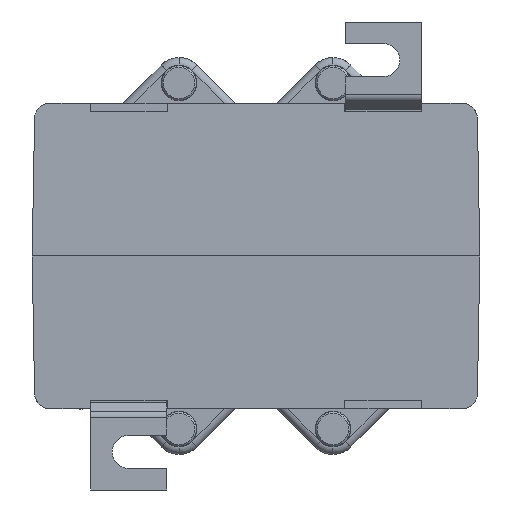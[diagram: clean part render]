
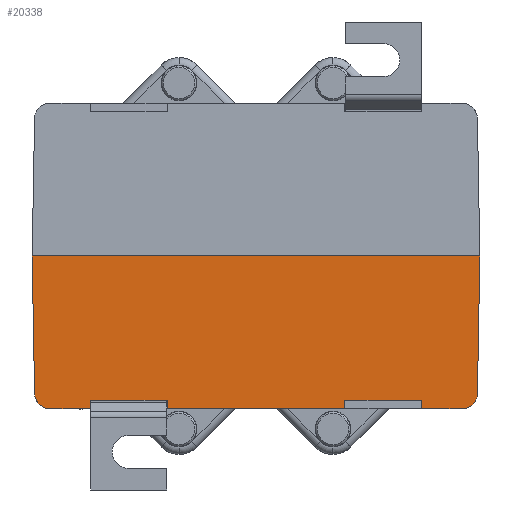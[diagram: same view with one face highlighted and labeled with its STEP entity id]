
A CAD part, front view. The second image highlights one B-rep face of the part: STEP entity #20338.
In plain terms, the highlighted planar face has unit normal (0, -1, -0.018) as drawn and (0, -1, 0.017) by its records, which use the part's own axes.
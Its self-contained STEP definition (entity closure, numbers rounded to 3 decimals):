
#922 = CARTESIAN_POINT ( 'NONE',  ( 44., -60., 0. ) ) ;
#1244 = CARTESIAN_POINT ( 'NONE',  ( -44., -60., 0. ) ) ;
#1627 = DIRECTION ( 'NONE',  ( 1., 0., 0. ) ) ;
#1628 = VECTOR ( 'NONE', #1627, 1000. ) ;
#1629 = CARTESIAN_POINT ( 'NONE',  ( 44., -60., 0. ) ) ;
#1630 = LINE ( 'NONE', #1629, #1628 ) ;
#13314 = VERTEX_POINT ( 'NONE', #28097 ) ;
#13337 = VERTEX_POINT ( 'NONE', #28146 ) ;
#13385 = VERTEX_POINT ( 'NONE', #28362 ) ;
#13390 = VERTEX_POINT ( 'NONE', #28366 ) ;
#13397 = VERTEX_POINT ( 'NONE', #28417 ) ;
#13398 = VERTEX_POINT ( 'NONE', #28409 ) ;
#13415 = EDGE_CURVE ( 'NONE', #13514, #13398, #28429, .T. ) ;
#13431 = EDGE_CURVE ( 'NONE', #13390, #13397, #28431, .T. ) ;
#13496 = EDGE_CURVE ( 'NONE', #13314, #13337, #28731, .T. ) ;
#13514 = VERTEX_POINT ( 'NONE', #28865 ) ;
#17041 = ORIENTED_EDGE ( 'NONE', *, *, #23577, .F. ) ;
#17058 = VERTEX_POINT ( 'NONE', #38645 ) ;
#17082 = ORIENTED_EDGE ( 'NONE', *, *, #13415, .F. ) ;
#17086 = VERTEX_POINT ( 'NONE', #38707 ) ;
#17094 = VERTEX_POINT ( 'NONE', #38703 ) ;
#17188 = ORIENTED_EDGE ( 'NONE', *, *, #22343, .F. ) ;
#17519 = ORIENTED_EDGE ( 'NONE', *, *, #22578, .F. ) ;
#18211 = ORIENTED_EDGE ( 'NONE', *, *, #67458, .T. ) ;
#18225 = ORIENTED_EDGE ( 'NONE', *, *, #13496, .F. ) ;
#18482 = VERTEX_POINT ( 'NONE', #43911 ) ;
#18485 = ORIENTED_EDGE ( 'NONE', *, *, #23190, .T. ) ;
#18492 = ORIENTED_EDGE ( 'NONE', *, *, #23607, .T. ) ;
#19328 = EDGE_CURVE ( 'NONE', #13390, #17058, #46463, .T. ) ;
#19367 = VERTEX_POINT ( 'NONE', #46709 ) ;
#19379 = EDGE_LOOP ( 'NONE', ( #19964, #19486, #22671, #22667, #17519, #17188, #17082, #20560, #20659, #17041, #18225, #18492, #18485, #18211 ) ) ;
#19486 = ORIENTED_EDGE ( 'NONE', *, *, #19932, .T. ) ;
#19932 = EDGE_CURVE ( 'NONE', #13385, #13397, #48813, .T. ) ;
#19964 = ORIENTED_EDGE ( 'NONE', *, *, #20650, .F. ) ;
#20338 = ADVANCED_FACE ( 'NONE', ( #50101 ), #50099, .T. ) ;
#20560 = ORIENTED_EDGE ( 'NONE', *, *, #22157, .T. ) ;
#20650 = EDGE_CURVE ( 'NONE', #13385, #67131, #51569, .T. ) ;
#20656 = EDGE_CURVE ( 'NONE', #17094, #17086, #51594, .T. ) ;
#20659 = ORIENTED_EDGE ( 'NONE', *, *, #20656, .F. ) ;
#22157 = EDGE_CURVE ( 'NONE', #13514, #17086, #54909, .T. ) ;
#22343 = EDGE_CURVE ( 'NONE', #13398, #19367, #54947, .T. ) ;
#22578 = EDGE_CURVE ( 'NONE', #19367, #17058, #54940, .T. ) ;
#22667 = ORIENTED_EDGE ( 'NONE', *, *, #19328, .T. ) ;
#22671 = ORIENTED_EDGE ( 'NONE', *, *, #13431, .F. ) ;
#23190 = EDGE_CURVE ( 'NONE', #18482, #67296, #55085, .T. ) ;
#23577 = EDGE_CURVE ( 'NONE', #13337, #17094, #53799, .T. ) ;
#23607 = EDGE_CURVE ( 'NONE', #13314, #18482, #55178, .T. ) ;
#28097 = CARTESIAN_POINT ( 'NONE',  ( -40.528, -59.476, 30. ) ) ;
#28146 = CARTESIAN_POINT ( 'NONE',  ( -32.561, -59.476, 30. ) ) ;
#28362 = CARTESIAN_POINT ( 'NONE',  ( 43.528, -59.528, 27.052 ) ) ;
#28366 = CARTESIAN_POINT ( 'NONE',  ( 32.561, -59.476, 30. ) ) ;
#28409 = CARTESIAN_POINT ( 'NONE',  ( 17.439, -59.476, 30. ) ) ;
#28417 = CARTESIAN_POINT ( 'NONE',  ( 40.528, -59.476, 30. ) ) ;
#28429 = LINE ( 'NONE', #28499, #28498 ) ;
#28431 = LINE ( 'NONE', #28541, #28538 ) ;
#28497 = DIRECTION ( 'NONE',  ( 1., 0., 0. ) ) ;
#28498 = VECTOR ( 'NONE', #28497, 1000. ) ;
#28499 = CARTESIAN_POINT ( 'NONE',  ( 44., -59.476, 30. ) ) ;
#28537 = DIRECTION ( 'NONE',  ( 1., 0., 0. ) ) ;
#28538 = VECTOR ( 'NONE', #28537, 1000. ) ;
#28541 = CARTESIAN_POINT ( 'NONE',  ( 44., -59.476, 30. ) ) ;
#28726 = DIRECTION ( 'NONE',  ( 1., 0., 0. ) ) ;
#28727 = VECTOR ( 'NONE', #28726, 1000. ) ;
#28730 = CARTESIAN_POINT ( 'NONE',  ( 44., -59.476, 30. ) ) ;
#28731 = LINE ( 'NONE', #28730, #28727 ) ;
#28865 = CARTESIAN_POINT ( 'NONE',  ( -17.439, -59.476, 30. ) ) ;
#38645 = CARTESIAN_POINT ( 'NONE',  ( 32.554, -59.504, 28.4 ) ) ;
#38703 = CARTESIAN_POINT ( 'NONE',  ( -32.554, -59.504, 28.4 ) ) ;
#38707 = CARTESIAN_POINT ( 'NONE',  ( -17.446, -59.504, 28.4 ) ) ;
#43911 = CARTESIAN_POINT ( 'NONE',  ( -43.528, -59.528, 27.052 ) ) ;
#46458 = DIRECTION ( 'NONE',  ( -0.004, -0.017, -1. ) ) ;
#46459 = VECTOR ( 'NONE', #46458, 1000. ) ;
#46463 = LINE ( 'NONE', #46464, #46459 ) ;
#46464 = CARTESIAN_POINT ( 'NONE',  ( 32.43, -59.999, 0.05 ) ) ;
#46709 = CARTESIAN_POINT ( 'NONE',  ( 17.446, -59.504, 28.4 ) ) ;
#48806 = CARTESIAN_POINT ( 'NONE',  ( 40.528, -59.476, 30. ) ) ;
#48808 = CARTESIAN_POINT ( 'NONE',  ( 42.261, -59.476, 30. ) ) ;
#48809 = CARTESIAN_POINT ( 'NONE',  ( 43.498, -59.498, 28.785 ) ) ;
#48810 = CARTESIAN_POINT ( 'NONE',  ( 43.528, -59.528, 27.052 ) ) ;
#48813 =( BOUNDED_CURVE ( )  B_SPLINE_CURVE ( 3, ( #48810, #48809, #48808, #48806 ),
 .UNSPECIFIED., .F., .F. ) 
 B_SPLINE_CURVE_WITH_KNOTS ( ( 4, 4 ),
 ( 1.588, 3.142 ),
 .UNSPECIFIED. ) 
 CURVE ( )  GEOMETRIC_REPRESENTATION_ITEM ( )  RATIONAL_B_SPLINE_CURVE ( ( 1., 0.809, 0.809, 1. ) ) 
 REPRESENTATION_ITEM ( '' )  );
#50034 = CARTESIAN_POINT ( 'NONE',  ( 44., -60., 0. ) ) ;
#50080 = DIRECTION ( 'NONE',  ( 0., -0.017, -1. ) ) ;
#50083 = AXIS2_PLACEMENT_3D ( 'NONE', #50034, #50097, #50080 ) ;
#50097 = DIRECTION ( 'NONE',  ( 0., -1., 0.017 ) ) ;
#50099 = PLANE ( 'NONE',  #50083 ) ;
#50101 = FACE_OUTER_BOUND ( 'NONE', #19379, .T. ) ;
#50910 = VECTOR ( 'NONE', #50933, 1000. ) ;
#50933 = DIRECTION ( 'NONE',  ( 1., 0., 0. ) ) ;
#51553 = CARTESIAN_POINT ( 'NONE',  ( 44., -59.504, 28.4 ) ) ;
#51569 = LINE ( 'NONE', #51571, #51603 ) ;
#51570 = DIRECTION ( 'NONE',  ( 0.017, -0.017, -1. ) ) ;
#51571 = CARTESIAN_POINT ( 'NONE',  ( 44., -60., 0. ) ) ;
#51594 = LINE ( 'NONE', #51553, #50910 ) ;
#51603 = VECTOR ( 'NONE', #51570, 1000. ) ;
#53795 = CARTESIAN_POINT ( 'NONE',  ( -32.429, -60.006, -0.333 ) ) ;
#53799 = LINE ( 'NONE', #53795, #53802 ) ;
#53802 = VECTOR ( 'NONE', #53811, 1000. ) ;
#53811 = DIRECTION ( 'NONE',  ( 0.004, -0.017, -1. ) ) ;
#54890 = VECTOR ( 'NONE', #54898, 1000. ) ;
#54898 = DIRECTION ( 'NONE',  ( -0.004, -0.017, -1. ) ) ;
#54908 = CARTESIAN_POINT ( 'NONE',  ( -17.5, -59.72, 16.046 ) ) ;
#54909 = LINE ( 'NONE', #54908, #54890 ) ;
#54931 = DIRECTION ( 'NONE',  ( 1., 0., 0. ) ) ;
#54938 = VECTOR ( 'NONE', #54931, 1000. ) ;
#54939 = CARTESIAN_POINT ( 'NONE',  ( 44., -59.504, 28.4 ) ) ;
#54940 = LINE ( 'NONE', #54939, #54938 ) ;
#54941 = DIRECTION ( 'NONE',  ( 0.004, -0.017, -1. ) ) ;
#54942 = VECTOR ( 'NONE', #54941, 1000. ) ;
#54943 = CARTESIAN_POINT ( 'NONE',  ( 17.5, -59.72, 16.046 ) ) ;
#54947 = LINE ( 'NONE', #54943, #54942 ) ;
#55082 = DIRECTION ( 'NONE',  ( -0.017, -0.017, -1. ) ) ;
#55083 = VECTOR ( 'NONE', #55082, 1000. ) ;
#55084 = CARTESIAN_POINT ( 'NONE',  ( -43.973, -59.973, 1.535 ) ) ;
#55085 = LINE ( 'NONE', #55084, #55083 ) ;
#55173 = CARTESIAN_POINT ( 'NONE',  ( -43.528, -59.528, 27.052 ) ) ;
#55175 = CARTESIAN_POINT ( 'NONE',  ( -43.498, -59.498, 28.785 ) ) ;
#55176 = CARTESIAN_POINT ( 'NONE',  ( -42.261, -59.476, 30. ) ) ;
#55177 = CARTESIAN_POINT ( 'NONE',  ( -40.528, -59.476, 30. ) ) ;
#55178 =( BOUNDED_CURVE ( )  B_SPLINE_CURVE ( 3, ( #55177, #55176, #55175, #55173 ),
 .UNSPECIFIED., .F., .T. ) 
 B_SPLINE_CURVE_WITH_KNOTS ( ( 4, 4 ),
 ( 0., 1.553 ),
 .UNSPECIFIED. ) 
 CURVE ( )  GEOMETRIC_REPRESENTATION_ITEM ( )  RATIONAL_B_SPLINE_CURVE ( ( 1., 0.809, 0.809, 1. ) ) 
 REPRESENTATION_ITEM ( '' )  );
#67131 = VERTEX_POINT ( 'NONE', #922 ) ;
#67296 = VERTEX_POINT ( 'NONE', #1244 ) ;
#67458 = EDGE_CURVE ( 'NONE', #67296, #67131, #1630, .T. ) ;
